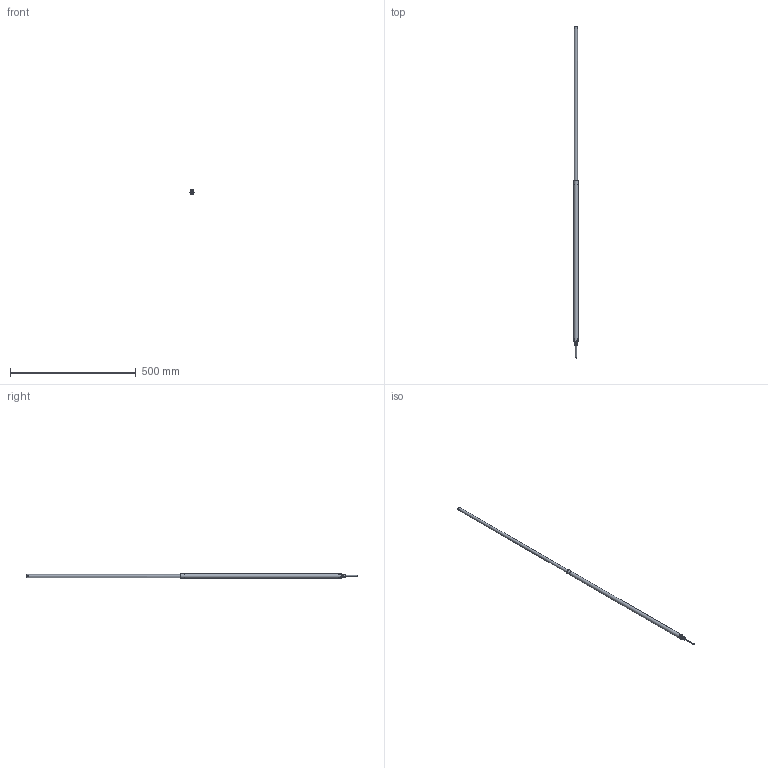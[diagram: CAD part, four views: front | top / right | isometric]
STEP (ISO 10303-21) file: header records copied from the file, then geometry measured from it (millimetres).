
FILE_DESCRIPTION(/* description */ ('Unknown'),/* implementation_level */ '2;1');
FILE_NAME(/* name */ '107.00166 Zylinder CI 1460_ausgefahren',/* time_stamp */ '2018-07-06T17:30:58+02:00',/* author */ ('Unknown'),/* organization */ ('Unknown'),/* preprocessor_version */ 'ST-DEVELOPER v16.7',/* originating_system */ 'DEX',/* authorisation */ $);
FILE_SCHEMA (('AUTOMOTIVE_DESIGN {1 0 10303 214 3 1 1}'));
Length unit declared in the file: millimetre
Products named in the file (9): 107.00166; 121.00006; 142.00021; 125.00021; 115.00007_oa_0; 125.00031; 120.00006; 122.00001; 113.00002_70mm
Assembly tree (8 placements, depth 2):
  107.00166
    121.00006
    142.00021
    125.00021
    115.00007_oa_0
    125.00031
    120.00006
    122.00001
    113.00002_70mm
Bounding box: 19.63 x 1321 x 17 mm (x, y, z)
Volume: 105656.4 mm3; surface area: 89782.9 mm2
Topology: 7 solids, 7 shells, 89 faces, 178 edges, 114 vertices
Faces by surface type: plane 37, cylinder 27, cone 21, torus 3, sphere 1
Full cylindrical faces by diameter (mm): 2.2 x1, 3.5 x1, 4 x1, 4.1 x1, 4.2 x1, 6 x1, 6.917 x2, 7.763 x2, 8 x3, 8.1 x3, 9 x1, 12 x2, 12.5 x1, 13 x2, 13.9 x2, 14 x2, 16 x1
Entity records: 2650 total; most frequent: CARTESIAN_POINT 397, DIRECTION 376, ORIENTED_EDGE 244, AXIS2_PLACEMENT_3D 170, FACE_BOUND 159, EDGE_LOOP 158, EDGE_CURVE 122, VERTEX_POINT 105
